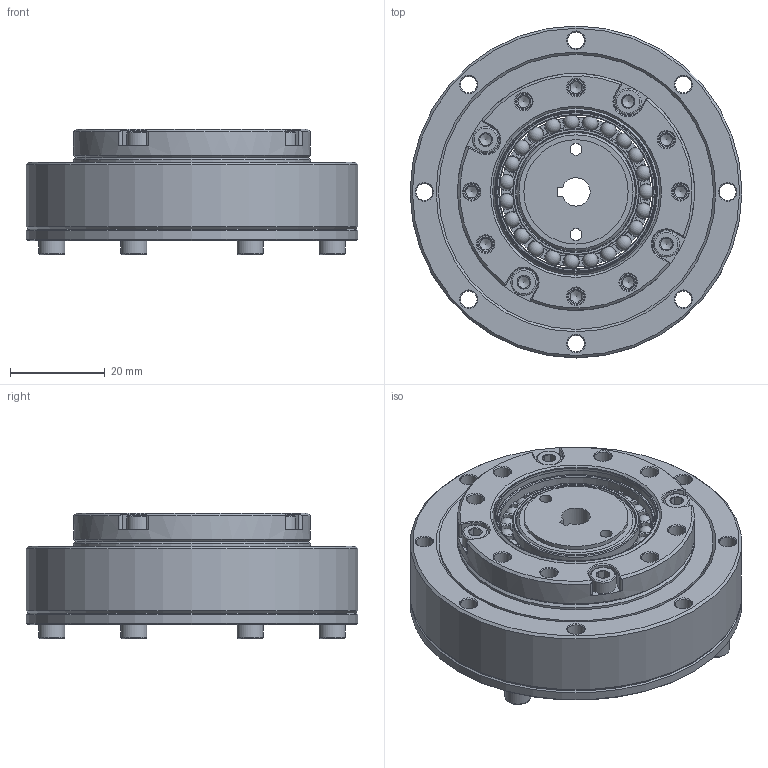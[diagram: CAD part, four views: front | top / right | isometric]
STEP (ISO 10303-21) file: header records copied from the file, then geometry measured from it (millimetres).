
FILE_DESCRIPTION(/* description */ (''),/* implementation_level */ '2;1');
FILE_NAME(/* name */ 'FHG-14-XX-U-I(孔径6）.stp',/* time_stamp */ '2024-11-30T11:01:51+08:00',/* author */ (''),/* organization */ (''),/* preprocessor_version */ 'ST-DEVELOPER v16.7',/* originating_system */ 'SIEMENS PLM Software NX 12.0',/* authorisation */ '');
FILE_SCHEMA (('AUTOMOTIVE_DESIGN { 1 0 10303 214 3 1 1 1 }'));
Length unit declared in the file: millimetre
Products named in the file (15): EB253406-14KCH-46; EB253406-14KCH-04; EB253406-14KCH-02; EB253406-14KCH-01; TC-50x58x4; GB-T70.1-2000,M3x8; GB-T70.1-2000,M3x6; 发生器FSG-14-XXDL直径6_stp; O型密封圈40-38-0.55; 刚轮FHG-14-I; O型密封圈57.8-54-1.1; 柔轮FHG-14; EB253406-14KCH_stp; 交叉轴承LHT-14; FHG-14-XX-U-I(孔径6）
Assembly tree (20 placements, depth 3):
  FHG-14-XX-U-I(孔径6）
    柔轮FHG-14
    交叉轴承LHT-14
      TC-50x58x4
    O型密封圈57.8-54-1.1
    刚轮FHG-14-I
    O型密封圈40-38-0.55
    发生器FSG-14-XXDL直径6_stp
    EB253406-14KCH_stp
      EB253406-14KCH-01
      EB253406-14KCH-02
      EB253406-14KCH-04
      EB253406-14KCH-46
    GB-T70.1-2000,M3x6  x4
    GB-T70.1-2000,M3x8  x4
Bounding box: 70 x 70 x 26.5 mm (x, y, z)
Volume: 52122.1 mm3; surface area: 45759.2 mm2
Topology: 42 solids, 42 shells, 721 faces, 1674 edges, 1016 vertices
Faces by surface type: plane 228, cone 207, cylinder 177, torus 85, sphere 23, bspline 1
Full cylindrical faces by diameter (mm): 1.6 x4, 2.5 x22, 2.874 x8, 3.5 x34, 5.5 x8, 14 x1, 22 x1, 23.8 x1, 25.07 x2, 26.695 x2, 27.5 x1, 29 x1, 31.5 x1, 32.401 x2, 33.896 x2, 34.26 x1, 35.09 x1, 35.25 x1, 35.6 x1, 38 x3, 38.6 x1, 40 x2, 45.8 x1, 48 x1, 50 x4, 50.6 x2, 54 x2, 54.6 x1, 57.8 x2, 58 x2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
Entity records: 17779 total; most frequent: CARTESIAN_POINT 4397, DIRECTION 2653, ORIENTED_EDGE 1954, AXIS2_PLACEMENT_3D 1221, EDGE_CURVE 977, EDGE_LOOP 905, VERTEX_POINT 785, FACE_BOUND 713
